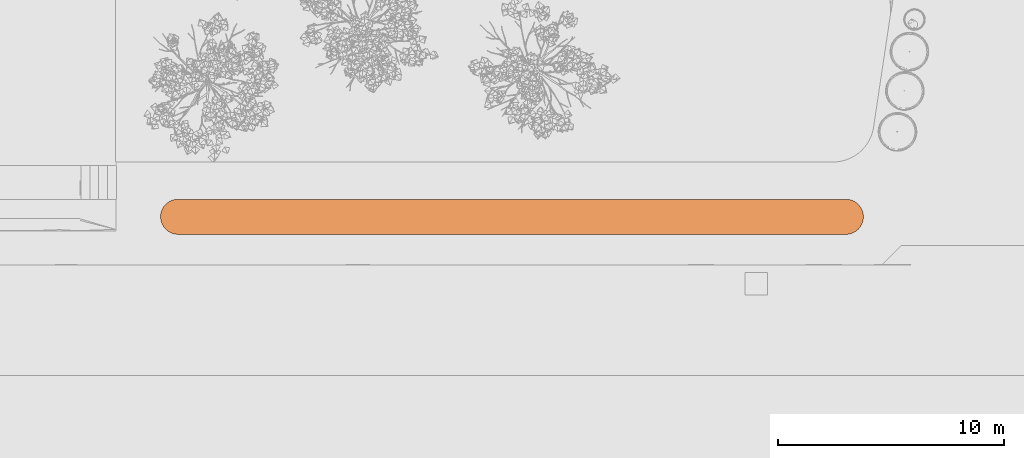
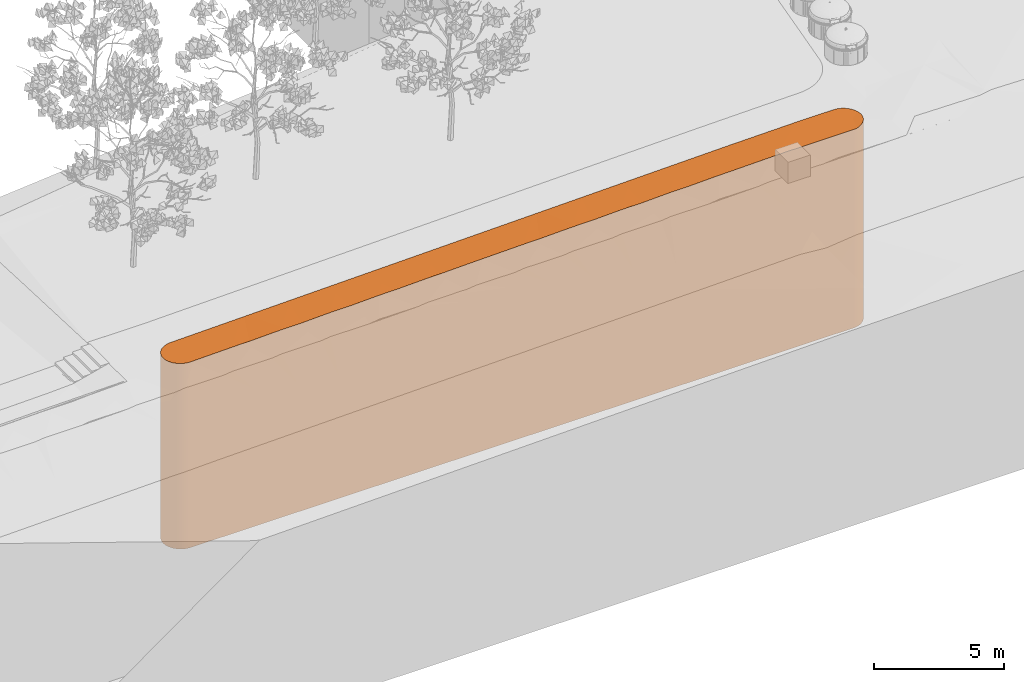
# One storey, part 210 of 246: 1 proxy.
"""IFC2X3 building model written with IfcOpenShell, lengths in millimetres."""

from ifc_helpers import new_model, entity, si_unit, converted_unit, derived_unit, money_unit, direction, frame, origin_with_axes, place, context, subcontext, project, spatial, faceted_brep, material, type_object, element, save


model = new_model("IFC2X3")

# Units and contexts
model_context = context("Model", 3, precision=0.01, world=origin_with_axes(), true_north=direction((0.0, 1.0)))
body_context = subcontext(model_context, "Body", "Model", "MODEL_VIEW")
ifc_project = project(units=[si_unit("LENGTHUNIT", "METRE", prefix="MILLI"), si_unit("AREAUNIT", "SQUARE_METRE"), si_unit("VOLUMEUNIT", "CUBIC_METRE"), converted_unit("PLANEANGLEUNIT", "DEGREE", entity("IfcPlaneAngleMeasure", 0.0174532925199), si_unit("PLANEANGLEUNIT", "RADIAN"), dimensions=[0, 0, 0, 0, 0, 0, 0]), si_unit("SOLIDANGLEUNIT", "STERADIAN"), money_unit("EUR"), converted_unit("TIMEUNIT", "Year", entity("IfcTimeMeasure", 31556926.0), si_unit("TIMEUNIT", "SECOND"), dimensions=[0, 0, 1, 0, 0, 0, 0]), si_unit("MASSUNIT", "GRAM", prefix="KILO"), si_unit("THERMODYNAMICTEMPERATUREUNIT", "DEGREE_CELSIUS"), si_unit("LUMINOUSINTENSITYUNIT", "LUMEN"), si_unit("ENERGYUNIT", "JOULE", prefix="MEGA"), derived_unit("THERMALCONDUCTANCEUNIT", [(si_unit("POWERUNIT", "WATT"), 1), (si_unit("LENGTHUNIT", "METRE"), -1), (si_unit("THERMODYNAMICTEMPERATUREUNIT", "KELVIN"), -1)]), derived_unit("SPECIFICHEATCAPACITYUNIT", [(si_unit("ENERGYUNIT", "JOULE"), 1), (si_unit("MASSUNIT", "GRAM", prefix="KILO"), -1), (si_unit("THERMODYNAMICTEMPERATUREUNIT", "KELVIN"), -1)]), derived_unit("MASSDENSITYUNIT", [(si_unit("MASSUNIT", "GRAM", prefix="KILO"), 1), (si_unit("VOLUMEUNIT", "CUBIC_METRE"), -1)])], contexts=[model_context])

# Site, building, storey
site_placement = place(None, origin_with_axes())
site = spatial("IfcSite", under=ifc_project, at=site_placement, Name="L.Koidula tn 11b", CompositionType="ELEMENT")
building_placement = place(site_placement, origin_with_axes())
building = spatial("IfcBuilding", under=site, at=building_placement, Name="Rakvere Riigigümnaasium", CompositionType="ELEMENT")
storey_placement = place(building_placement, origin_with_axes())
storey = spatial("IfcBuildingStorey", under=building, at=storey_placement, Name="1.korrus 0,00", CompositionType="ELEMENT", Elevation=0.0)

# Proxy
ifc_material = material(Name="Roheala")
building_element_proxy_type = type_object("IfcBuildingElementProxyType", Name="Roheala", PredefinedType="NOTDEFINED")
proxy_placement = place(storey_placement, frame((-25848.0799634, 2686.30119041, -10000.0), z_axis=(0.0, 0.0, 1.0), x_axis=(1.0, 0.0, 0.0)))
element("IfcBuildingElementProxy", 1, at=proxy_placement, inside=storey, type_object=building_element_proxy_type, material=ifc_material, Name="Roheala", context=body_context, shape_type="Brep", body=[
    faceted_brep([(31082.02602, 879.009347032, 9356.46340841), (31088.9027096, 790.624396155, 9361.26462671), (31088.9027096, 790.624396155, 0.0), (31082.02602, 879.009347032, 0.0), (31085.65945, 702.031678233, 9365.65116052), (31065.1190292, 966.034297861, 9351.31009684), (31058.6827906, 986.398130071, 9350.0), (30657.5232987, 656.170868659, 9350.0), (30985.5465254, 389.336094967, 9377.40763215), (31016.2874093, 446.479703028, 9375.78222621), (31049.1135842, 528.830359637, 9372.95758548), (31072.338522, 614.386134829, 9369.56582465), (31085.65945, 702.031678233, 0.0), (733.849455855, 1550.236667, 0.0), (778.167508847, 1550.05785264, 0.0), (30350.7217875, 1548.92407451, 0.0), (30451.1675833, 1538.66699692, 0.0), (30537.3516807, 1517.89466554, 0.0), (30620.6061401, 1487.43348693, 0.0), (30699.8456121, 1447.68056915, 0.0), (30774.0370892, 1399.15415227, 0.0), (30842.2133719, 1342.48685234, 0.0), (30903.4856781, 1278.41741429, 0.0), (30957.0552296, 1207.78108122, 0.0), (31002.2236655, 1131.49870576, 0.0), (31038.4021459, 1050.56474532, 0.0), (31065.1190292, 966.034297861, 0.0), (31072.338522, 614.386134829, 0.0), (31049.1135842, 528.830359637, 0.0), (31016.2874093, 446.479703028, 0.0), (30974.2879367, 368.40773175, 0.0), (30923.6626936, 295.632233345, 0.0), (30865.0716577, 229.101947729, 0.0), (30799.2786525, 169.68419892, 0.0), (30727.1413906, 118.153588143, 0.0), (30649.6002915, 75.1818957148, 0.0), (30567.666222, 41.3293233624, 0.0), (30482.407318, 17.0371911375, 0.0), (30394.9350596, 2.62218413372, 0.0), (30350.6624207, 0.447204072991, 0.0), (769.960851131, 0.0, 0.0), (683.437056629, 4.14077339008, 0.0), (596.160113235, 19.6075873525, 0.0), (511.215147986, 44.9224063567, 0.0), (429.70954841, 79.7552130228, 0.0), (352.705864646, 123.651908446, 0.0), (281.207957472, 176.04023207, 0.0), (216.147911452, 236.237221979, 0.0), (158.37388378, 303.458118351, 0.0), (108.639047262, 376.826593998, 0.0), (67.5917715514, 455.38617864, 0.0), (35.7671706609, 538.112727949, 0.0), (13.5801269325, 623.92777484, 0.0), (1.31988241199, 711.712588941, 0.0), (-0.853731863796, 800.322760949, 0.0), (7.08762049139, 888.603121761, 0.0), (25.0404118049, 975.402801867, 0.0), (52.7705999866, 1059.59023469, 0.0), (89.9166796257, 1140.0679083, 0.0), (135.994394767, 1215.78667315, 0.0), (190.403051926, 1285.75941933, 0.0), (252.433351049, 1349.0739451, 0.0), (321.276632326, 1404.90484878, 0.0), (396.035418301, 1452.52428915, 0.0), (475.735113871, 1491.311474, 0.0), (559.336711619, 1520.76075305, 0.0), (645.750336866, 1540.4882099, 0.0), (31038.4021459, 1050.56474532, 9350.0), (31002.2236655, 1131.49870576, 9350.0), (30957.0552296, 1207.78108122, 9350.0), (30903.4856781, 1278.41741429, 9350.0), (30842.2133719, 1342.48685234, 9350.0), (30774.0370892, 1399.15415227, 9350.0), (30699.8456121, 1447.68056915, 9350.0), (30620.6061401, 1487.43348693, 9350.0), (30537.3516807, 1517.89466554, 9350.0), (30451.1675833, 1538.66699692, 9350.0), (30350.7217875, 1548.92407451, 9350.0), (28705.0931191, 1548.98716604, 9350.0), (27020.325496, 162.116830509, 9350.0), (27216.7874442, 0.399825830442, 9350.0), (30253.8310594, 0.445740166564, 9350.0), (30057.3861099, 162.148752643, 9350.0), (30974.2879367, 368.40773175, 9377.00345882), (30493.2559388, 20.128201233, 9350.0), (30567.666222, 41.3293233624, 9354.7597933), (30649.6002915, 75.1818957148, 9359.81347903), (30727.1413906, 118.153588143, 9364.40122229), (30799.2786525, 169.68419892, 9368.46321483), (30865.0716577, 229.101947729, 9371.94650238), (30923.6626936, 295.632233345, 9374.80567493), (733.849455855, 1550.236667, 8725.52825357), (778.167508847, 1550.05785264, 8726.55480791), (1793.84113328, 1550.01891287, 8750.0), (3959.89700612, 1549.93586875, 8800.0), (4039.7381271, 1549.93280773, 8800.0), (4207.15991788, 1549.92638897, 8805.70767316), (6125.95575621, 1549.85282452, 8850.0), (8292.01610532, 1549.76978022, 8900.0), (10458.0764529, 1549.68673593, 8950.0), (12624.1356921, 1549.60369168, 9000.0), (14790.1932802, 1549.52064749, 9050.0), (16956.2497561, 1549.43760335, 9100.0), (17064.052627, 1549.43347031, 9100.0), (17323.6670246, 1549.42351699, 9108.48124641), (19122.307572, 1549.35455915, 9150.0), (21288.367919, 1549.27151486, 9200.0), (23454.4282661, 1549.18847057, 9250.0), (25421.0915051, 1549.11307093, 9295.39724024), (25668.2127218, 1549.10359659, 9300.0), (30482.407318, 17.0371911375, 9350.0), (30394.9350596, 2.62218413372, 9350.0), (30350.6624207, 0.447204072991, 9350.0), (2896.85646906, 0.0321546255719, 8800.0), (769.960851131, 0.0, 8750.90765655), (26823.8647511, 0.393885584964, 9343.5311648), (24802.7251058, 0.363329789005, 9300.0), (24558.8313154, 0.359642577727, 9300.0), (24511.1983873, 0.358922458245, 9294.66282284), (24325.2938619, 0.356111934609, 9294.60951678), (24281.3167888, 0.355447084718, 9293.59443056), (22976.5631331, 0.335721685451, 9250.0), (22392.6341543, 0.326893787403, 9250.0), (22345.0074825, 0.326173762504, 9244.66358088), (22159.1293539, 0.323363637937, 9244.61028238), (22041.7399703, 0.321588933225, 9241.90068683), (20924.956892, 0.304705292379, 9200.0), (20226.436992, 0.294144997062, 9200.0), (19749.3593622, 0.286932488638, 9188.98813001), (18694.1426346, 0.270979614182, 9150.0), (18060.2398319, 0.261396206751, 9150.0), (17315.146433, 0.25013180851, 9132.80181019), (16311.04361, 0.234951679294, 9100.0), (15894.0426704, 0.228647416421, 9100.0), (13727.8455093, 0.195898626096, 9050.0), (13093.5922672, 0.186309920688, 9035.36028909), (11899.8397383, 0.168262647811, 9000.0), (11561.6451115, 0.163149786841, 9000.0), (11299.6723141, 0.159189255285, 8993.95316359), (9911.05305514, 0.138195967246, 8950.0), (9395.4479504, 0.130400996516, 8950.0), (9347.86205701, 0.129681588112, 8944.66812912), (9162.14231063, 0.126873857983, 8944.61487605), (9068.97348589, 0.125465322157, 8942.46434095), (7915.20689024, 0.108022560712, 8900.0), (7229.25079014, 0.0976522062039, 8900.0), (6796.09696894, 0.0911037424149, 8890.00197607), (5731.51035323, 0.0750092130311, 8850.0), (5063.05362942, 0.0649034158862, 8850.0), (4419.576221, 0.055175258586, 8835.14730283), (3388.58576732, 0.0395886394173, 8800.0), (728.95854287, 1.96224943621, 8750.0), (683.437056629, 4.14077339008, 8748.99287275), (596.160113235, 19.6075873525, 8747.28773336), (511.215147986, 44.9224063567, 8745.83337462), (429.70954841, 79.7552130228, 8744.64875634), (352.705864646, 123.651908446, 8743.74932182), (301.116587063, 161.452675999, 8743.31448699), (281.207957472, 176.04023207, 8742.56320058), (216.147911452, 236.237221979, 8739.85753816), (158.37388378, 303.458118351, 8737.17958241), (108.639047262, 376.826593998, 8734.56424456), (67.5917715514, 455.38617864, 8732.04561956), (35.7671706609, 538.112727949, 8729.65654152), (13.5801269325, 623.92777484, 8727.42815573), (1.31988241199, 711.712588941, 8725.38951262), (-0.853731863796, 800.322760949, 8723.567189), (7.08762049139, 888.603121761, 8721.98494166), (25.0404118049, 975.402801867, 8720.66339761), (52.7705999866, 1059.59023469, 8719.6197852), (89.9166796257, 1140.0679083, 8718.86770951), (135.994394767, 1215.78667315, 8718.41697499), (190.403051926, 1285.75941933, 8718.27345767), (252.433351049, 1349.0739451, 8718.43902851), (321.276632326, 1404.90484878, 8718.91152903), (396.035418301, 1452.52428915, 8719.68479948), (475.735113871, 1491.311474, 8720.7487591), (559.336711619, 1520.76075305, 8722.08953753), (645.750336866, 1540.4882099, 8723.68965568), (25501.7820616, 1412.10087724, 9300.0), (590.756711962, 161.460125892, 8750.0), (2756.9339711, 161.515842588, 8800.0), (4923.11123036, 161.571559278, 8850.0), (5959.34169037, 1357.5543795, 8850.0), (7089.28848951, 161.627275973, 8900.0), (7803.78359857, 986.273826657, 8900.0), (9255.46574865, 161.682992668, 8950.0), (9648.22550673, 614.993275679, 8950.0), (11421.6430078, 161.738710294, 9000.0), (11899.8213872, 713.631488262, 9000.0), (13587.8202669, 161.794426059, 9050.0), (15753.9975261, 161.850142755, 9100.0), (17920.1747851, 161.905860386, 9150.0), (19046.2553218, 1461.57925014, 9150.0), (20086.3520444, 161.961576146, 9200.0), (20890.6952852, 1090.299713, 9200.0), (22252.5293035, 162.017294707, 9250.0), (22735.1352485, 719.020175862, 9250.0), (24418.7065627, 162.073011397, 9300.0), (24579.5752119, 347.740638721, 9300.0)], [[[0, 1, 2, 3]], [[4, 1, 0, 5, 6, 7, 8, 9, 10, 11]], [[1, 4, 12, 2]], [[13, 14, 15, 16, 17, 18, 19, 20, 21, 22, 23, 24, 25, 26, 3, 2, 12, 27, 28, 29, 30, 31, 32, 33, 34, 35, 36, 37, 38, 39, 40, 41, 42, 43, 44, 45, 46, 47, 48, 49, 50, 51, 52, 53, 54, 55, 56, 57, 58, 59, 60, 61, 62, 63, 64, 65, 66]], [[5, 0, 3, 26]], [[6, 5, 26, 25, 67]], [[6, 67, 68, 69, 70, 71, 72, 73, 74, 75, 76, 77, 78, 79, 80, 81, 82, 7]], [[83, 8, 7, 84, 85, 86, 87, 88, 89, 90]], [[8, 83, 30, 29, 9]], [[10, 9, 29, 28]], [[11, 10, 28, 27]], [[4, 11, 27, 12]], [[91, 92, 14, 13]], [[78, 77, 15, 14, 92, 93, 94, 95, 96, 97, 98, 99, 100, 101, 102, 103, 104, 105, 106, 107, 108, 109]], [[77, 76, 16, 15]], [[76, 75, 17, 16]], [[75, 74, 18, 17]], [[74, 73, 19, 18]], [[73, 72, 20, 19]], [[72, 71, 21, 20]], [[71, 70, 22, 21]], [[70, 69, 23, 22]], [[69, 68, 24, 23]], [[68, 67, 25, 24]], [[83, 90, 31, 30]], [[90, 89, 32, 31]], [[89, 88, 33, 32]], [[88, 87, 34, 33]], [[87, 86, 35, 34]], [[86, 85, 36, 35]], [[84, 110, 37, 36, 85]], [[110, 111, 38, 37]], [[111, 112, 39, 38]], [[113, 114, 40, 39, 112, 81, 80, 115, 116, 117, 118, 119, 120, 121, 122, 123, 124, 125, 126, 127, 128, 129, 130, 131, 132, 133, 134, 135, 136, 137, 138, 139, 140, 141, 142, 143, 144, 145, 146, 147, 148, 149, 150]], [[151, 152, 41, 40, 114]], [[152, 153, 42, 41]], [[153, 154, 43, 42]], [[154, 155, 44, 43]], [[155, 156, 45, 44]], [[157, 158, 46, 45, 156]], [[158, 159, 47, 46]], [[159, 160, 48, 47]], [[160, 161, 49, 48]], [[161, 162, 50, 49]], [[162, 163, 51, 50]], [[163, 164, 52, 51]], [[164, 165, 53, 52]], [[165, 166, 54, 53]], [[166, 167, 55, 54]], [[167, 168, 56, 55]], [[168, 169, 57, 56]], [[169, 170, 58, 57]], [[170, 171, 59, 58]], [[171, 172, 60, 59]], [[172, 173, 61, 60]], [[173, 174, 62, 61]], [[174, 175, 63, 62]], [[175, 176, 64, 63]], [[176, 177, 65, 64]], [[177, 178, 66, 65]], [[178, 91, 13, 66]], [[78, 109, 179, 79]], [[115, 80, 79]], [[110, 84, 7, 82, 81, 112, 111]], [[93, 92, 91, 178, 177, 176, 175, 174, 173, 172, 171, 170, 169, 168, 167, 166, 165, 164, 163, 162, 161, 160, 159, 158, 157, 180]], [[94, 93, 180, 181]], [[95, 94, 181, 113, 150]], [[150, 149, 182, 96, 95]], [[97, 96, 182, 183]], [[98, 97, 183, 184, 185]], [[99, 98, 185, 186, 187]], [[100, 99, 187, 188, 189]], [[101, 100, 189, 190]], [[102, 101, 190, 191]], [[103, 102, 191, 133, 132]], [[104, 103, 132, 131, 192]], [[105, 104, 192, 193]], [[106, 105, 193, 194, 195]], [[107, 106, 195, 196, 197]], [[108, 107, 197, 198, 199, 179]], [[109, 108, 179]], [[114, 113, 181, 180, 151]], [[116, 115, 79, 199]], [[117, 116, 199, 198]], [[118, 117, 198]], [[119, 118, 198]], [[120, 119, 198]], [[121, 120, 198, 197]], [[122, 121, 197, 196]], [[123, 122, 196]], [[124, 123, 196]], [[125, 124, 196]], [[126, 125, 196, 195]], [[127, 126, 195, 194]], [[128, 127, 194]], [[129, 128, 194, 193]], [[130, 129, 193, 192]], [[131, 130, 192]], [[134, 133, 191, 190]], [[135, 134, 190]], [[136, 135, 190, 189]], [[137, 136, 189, 188]], [[138, 137, 188]], [[139, 138, 188, 187]], [[140, 139, 187, 186]], [[141, 140, 186]], [[142, 141, 186]], [[143, 142, 186]], [[144, 143, 186, 185]], [[145, 144, 185, 184]], [[146, 145, 184]], [[147, 146, 184, 183]], [[148, 147, 183, 182]], [[149, 148, 182]], [[152, 151, 180, 157, 156, 155, 154, 153]], [[79, 179, 199]]]),
])

save(model, "model.ifc")
